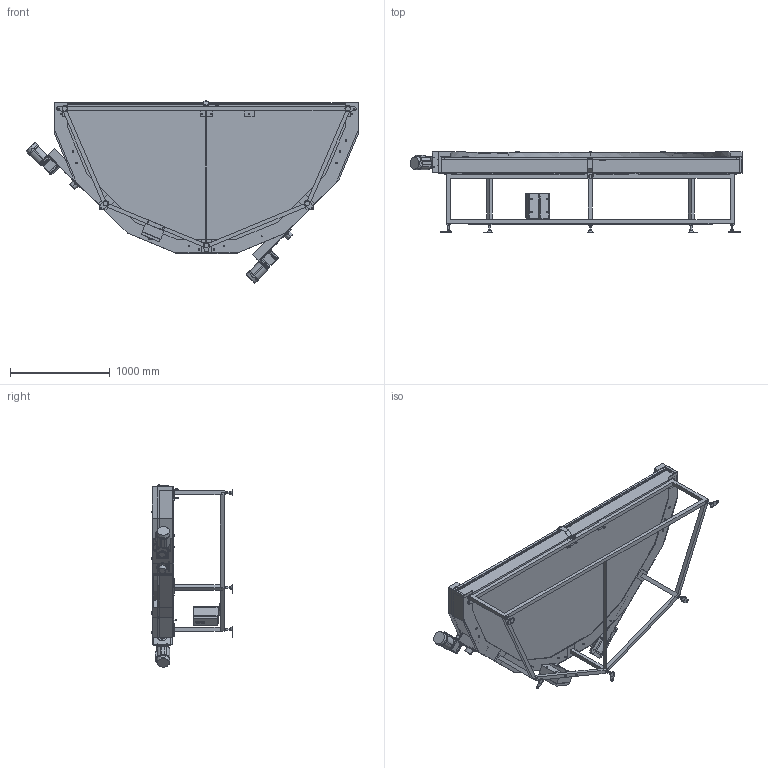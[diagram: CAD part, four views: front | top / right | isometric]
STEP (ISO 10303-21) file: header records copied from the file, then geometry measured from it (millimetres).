
FILE_DESCRIPTION (( 'STEP AP214' ), '1' );
FILE_NAME ('MMBC3-HS-340-1400-180°-L-K-1601.STEP', '2024-10-07T01:50:50', ( '' ), ( '' ), 'SwSTEP 2.0', 'SolidWorks 2017', '' );
FILE_SCHEMA (( 'AUTOMOTIVE_DESIGN' ));
Length unit declared in the file: millimetre
Products named in the file (1): MMBC3-HS-340-1400-180°-L-K-1601
Bounding box: 3328.79 x 810.8 x 1827.79 mm (x, y, z)
Volume: 628008027.6 mm3; surface area: 37199585.6 mm2
Topology: 57 solids, 57 shells, 2132 faces, 5182 edges, 3381 vertices
Faces by surface type: plane 1416, cylinder 570, cone 66, torus 48, bspline 32
Entity records: 68378 total; most frequent: CARTESIAN_POINT 16496, DIRECTION 10609, ORIENTED_EDGE 10324, EDGE_CURVE 5162, LINE 3667, VECTOR 3667, AXIS2_PLACEMENT_3D 3471, VERTEX_POINT 3381
